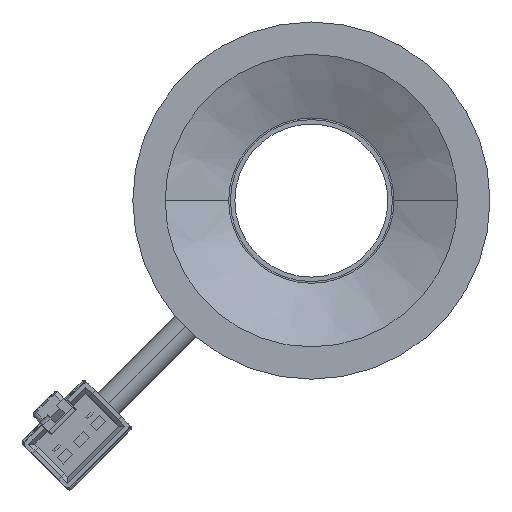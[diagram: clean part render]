
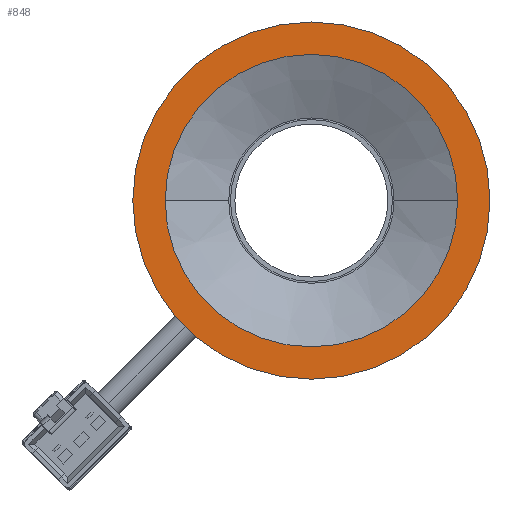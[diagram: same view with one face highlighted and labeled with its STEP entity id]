
A CAD part, front view. The second image highlights one B-rep face of the part: STEP entity #848.
In plain terms, the highlighted planar face has unit normal (0, -1, 0).
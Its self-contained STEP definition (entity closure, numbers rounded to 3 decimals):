
#225=CARTESIAN_POINT('',(0.,-18.,0.));
#226=DIRECTION('',(0.,1.,0.));
#227=DIRECTION('',(1.,0.,0.));
#228=AXIS2_PLACEMENT_3D('',#225,#226,#227);
#230=CARTESIAN_POINT('',(0.,-18.,0.));
#231=DIRECTION('',(0.,1.,0.));
#232=DIRECTION('',(-1.,0.,0.));
#233=AXIS2_PLACEMENT_3D('',#230,#231,#232);
#235=CARTESIAN_POINT('',(0.,-18.,0.));
#236=DIRECTION('',(0.,-1.,0.));
#237=DIRECTION('',(1.,0.,0.));
#238=AXIS2_PLACEMENT_3D('',#235,#236,#237);
#240=CARTESIAN_POINT('',(0.,-18.,0.));
#241=DIRECTION('',(0.,-1.,0.));
#242=DIRECTION('',(-1.,0.,0.));
#243=AXIS2_PLACEMENT_3D('',#240,#241,#242);
#463=CARTESIAN_POINT('',(-21.,-18.,0.));
#464=VERTEX_POINT('',#463);
#465=CARTESIAN_POINT('',(21.,-18.,0.));
#466=VERTEX_POINT('',#465);
#467=CARTESIAN_POINT('',(17.2,-18.,0.));
#468=CARTESIAN_POINT('',(-17.2,-18.,0.));
#469=VERTEX_POINT('',#467);
#470=VERTEX_POINT('',#468);
#833=CARTESIAN_POINT('',(0.,-18.,0.));
#834=DIRECTION('',(0.,1.,0.));
#835=DIRECTION('',(1.,0.,0.));
#836=AXIS2_PLACEMENT_3D('',#833,#834,#835);
#837=PLANE('',#836);
#838=ORIENTED_EDGE('',*,*,#826,.T.);
#839=ORIENTED_EDGE('',*,*,#815,.T.);
#840=EDGE_LOOP('',(#838,#839));
#841=FACE_OUTER_BOUND('',#840,.F.);
#843=ORIENTED_EDGE('',*,*,#842,.T.);
#845=ORIENTED_EDGE('',*,*,#844,.T.);
#846=EDGE_LOOP('',(#843,#845));
#847=FACE_BOUND('',#846,.F.);
#229=CIRCLE('',#228,21.);
#234=CIRCLE('',#233,21.);
#239=CIRCLE('',#238,17.2);
#244=CIRCLE('',#243,17.2);
#815=EDGE_CURVE('',#464,#466,#234,.T.);
#826=EDGE_CURVE('',#466,#464,#229,.T.);
#842=EDGE_CURVE('',#469,#470,#239,.T.);
#844=EDGE_CURVE('',#470,#469,#244,.T.);
#848=ADVANCED_FACE('',(#841,#847),#837,.F.);
